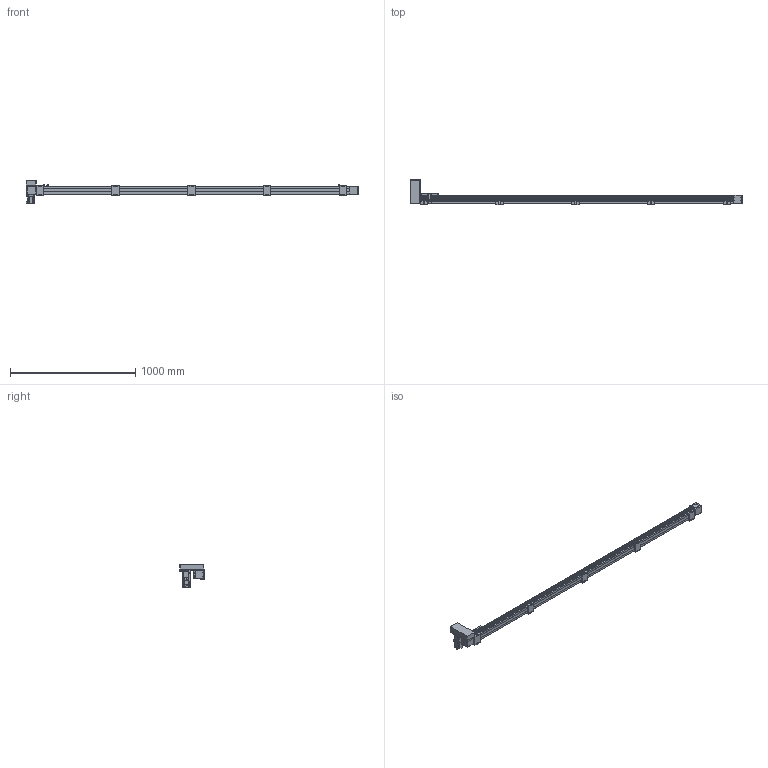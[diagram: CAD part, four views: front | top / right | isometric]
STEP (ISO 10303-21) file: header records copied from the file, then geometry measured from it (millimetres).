
FILE_DESCRIPTION(/* description */ ('STEP AP214'),/* implementation_level */ '2;1');
FILE_NAME(/* name */ 'SK60-P13-S2350-RU-T40-C1-N(0)',/* time_stamp */ '2023-04-06T05:05:29+02:00',/* author */ ('License CC BY-ND 4.0'),/* organization */ ('CADENAS'),/* preprocessor_version */ 'ST-DEVELOPER v19.3',/* originating_system */ 'PARTsolutions',/* authorisation */ ' ');
FILE_SCHEMA (('AUTOMOTIVE_DESIGN {1 0 10303 214 3 1 1}'));
Length unit declared in the file: millimetre
Products named in the file (10): SK60-P13-S2350-RU-T40-C1-N(0); PSC140-sensor; SK60-S450_seat; SK60-S450-BL-C1_slider; SK60_body3; SK60_body6; SK60-BL_body2; T40-p1; SK60-RU_fb; SK60-S2350-RU-C1_body
Assembly tree (19 placements, depth 2):
  SK60-P13-S2350-RU-T40-C1-N(0)
    PSC140-sensor  x3
    SK60-S450_seat  x5
    SK60-S450-BL-C1_slider
    SK60_body3  x3
    SK60_body6  x2
    SK60-BL_body2  x2
    T40-p1
    SK60-RU_fb
    SK60-S2350-RU-C1_body
Bounding box: 2655.5 x 201 x 189.7 mm (x, y, z)
Volume: 10203873.2 mm3; surface area: 1206387 mm2
Topology: 19 solids, 19 shells, 942 faces, 2342 edges, 1541 vertices
Faces by surface type: plane 596, cylinder 310, cone 34, torus 2
Full cylindrical faces by diameter (mm): 2.8 x3, 3.3 x4, 4 x2, 4.5 x30, 4.6 x3, 4.917 x28, 5 x6, 5.478 x4, 5.5 x31, 6.5 x10, 7 x2, 8 x4, 8.5 x4, 9.988 x4, 10 x20, 14 x1, 47 x3, 50 x2
Entity records: 18679 total; most frequent: DIRECTION 3190, CARTESIAN_POINT 3153, ORIENTED_EDGE 2940, EDGE_CURVE 1470, AXIS2_PLACEMENT_3D 1071, LINE 1048, VECTOR 1048, VERTEX_POINT 1034
